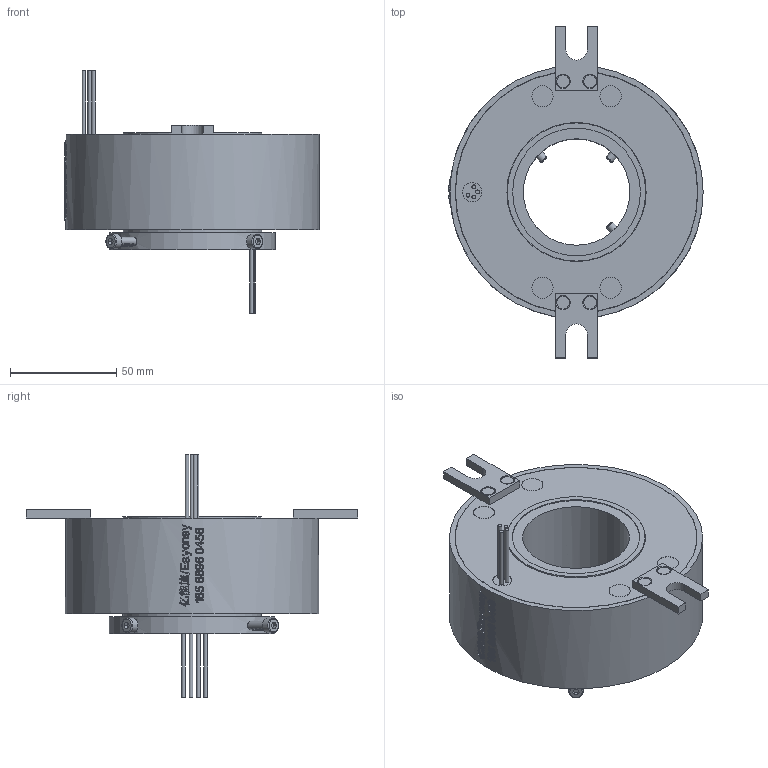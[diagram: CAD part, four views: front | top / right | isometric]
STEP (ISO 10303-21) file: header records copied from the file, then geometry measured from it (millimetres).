
FILE_DESCRIPTION(/* description */ (''),/* implementation_level */ '2;1');
FILE_NAME(/* name */ 'YDS50119-0410-3D模型.stp',/* time_stamp */ '2025-09-03T17:14:50+08:00',/* author */ (''),/* organization */ (''),/* preprocessor_version */ 'ST-DEVELOPER v16.7',/* originating_system */ 'SIEMENS PLM Software NX 12.0',/* authorisation */ '');
FILE_SCHEMA (('AUTOMOTIVE_DESIGN { 1 0 10303 214 3 1 1 1 }'));
Length unit declared in the file: millimetre
Products named in the file (1): Admi57E0E5BE08uk
Bounding box: 119.5 x 156 x 114.1 mm (x, y, z)
Volume: 441731.6 mm3; surface area: 56064.7 mm2
Topology: 1 solids, 5 shells, 902 faces, 2404 edges, 1599 vertices
Faces by surface type: extrusion 452, plane 327, cylinder 74, bspline 33, cone 12, torus 4
Full cylindrical faces by diameter (mm): 1.8 x8, 3 x4, 3.4 x1, 3.5 x4, 4 x7, 6 x4, 7 x4, 9 x1, 10 x4, 50 x1, 60 x1, 65 x2, 65.4 x1, 69.8 x1, 70 x1, 78 x1, 113.8 x2, 114 x2, 119 x1
Entity records: 35811 total; most frequent: CARTESIAN_POINT 16977, ORIENTED_EDGE 4628, EDGE_CURVE 2314, B_SPLINE_CURVE_WITH_KNOTS 2203, DIRECTION 2132, VERTEX_POINT 1575, EDGE_LOOP 1069, ADVANCED_FACE 902
